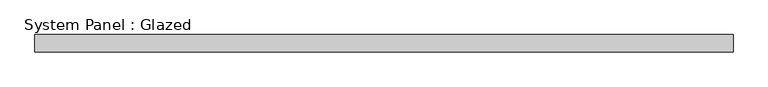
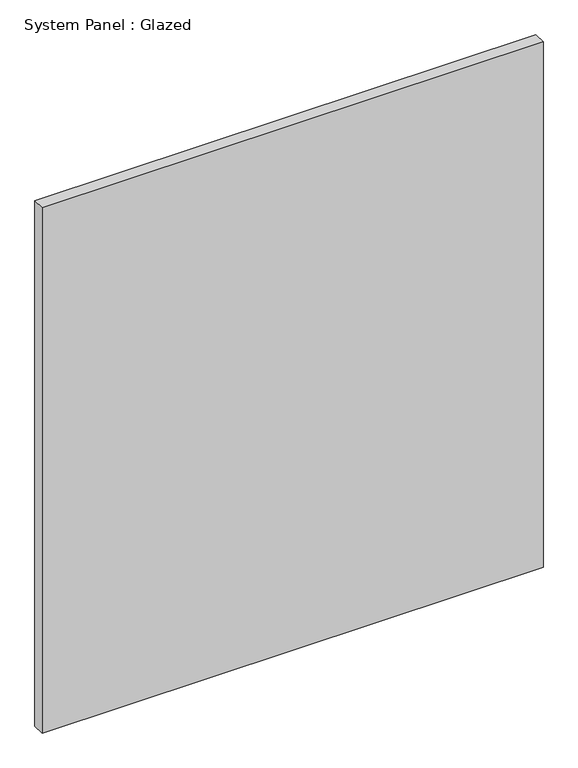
"""IFC4 building model written with IfcOpenShell, lengths in millimetres: plate geometry, System Panel : Glazed."""

from ifc_helpers import new_model, si_unit, origin, origin_with_axes, place, context, project, spatial, polyline, outline, extrude, source, transform, mapped, element, save


def system_panel_glazed_2487e76f(model_context):
    return source(origin(), model_context, "Body", "SweptSolid", [
        extrude(outline(polyline([(507.5, -12.5), (-507.5, -12.5), (-507.5, 12.5), (507.5, 12.5), (507.5, -12.5)])), origin_with_axes(), (0.0, 0.0, 1.0), 1125.0),
    ])


if __name__ == "__main__":
    model = new_model("IFC4")
    model_context = context("Model", 3, world=origin())
    ifc_project = project(units=[si_unit("LENGTHUNIT", "METRE", prefix="MILLI")], contexts=[model_context])
    site = spatial("IfcSite", under=ifc_project)
    building = spatial("IfcBuilding", under=site)
    placement = place(None, origin())
    system_panel_glazed_shape = system_panel_glazed_2487e76f(model_context)
    element("IfcPlate", 1, ObjectType="System Panel : Glazed", at=placement, inside=building, context=model_context, shape_type="MappedRepresentation", body=[
        mapped(system_panel_glazed_shape, transform((0.0, 0.0, 0.0), x_axis=(1.0, 0.0, 0.0), y_axis=(0.0, 1.0, 0.0), z_axis=(0.0, 0.0, 1.0))),
    ])
    save(model, "model.ifc")
